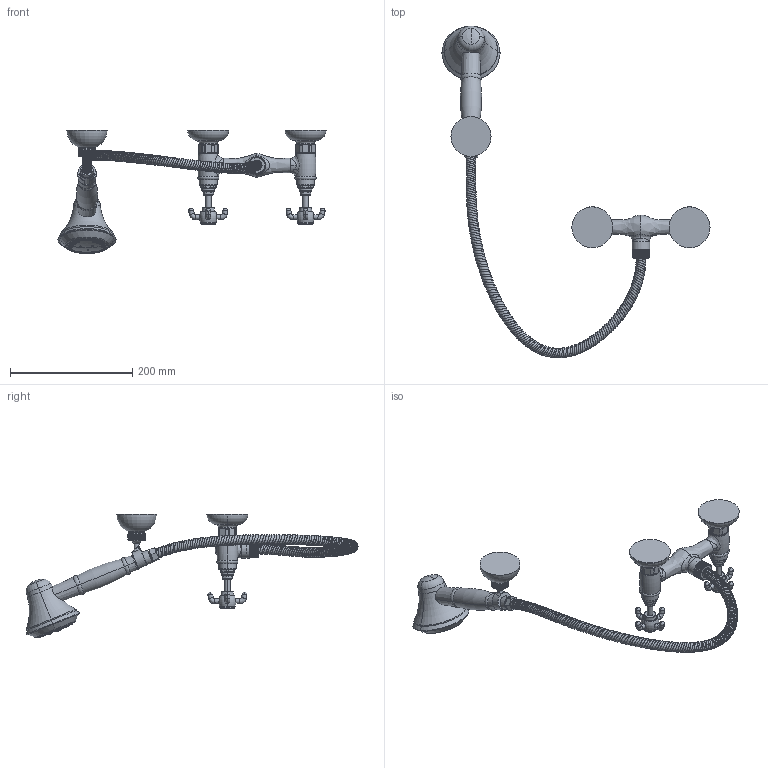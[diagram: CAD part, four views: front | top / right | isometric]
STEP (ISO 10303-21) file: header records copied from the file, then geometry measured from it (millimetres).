
FILE_DESCRIPTION (( 'STEP AP203' ), '1' );
FILE_NAME ('Ñáîðêà1.STEP', '2020-05-27T17:56:25', ( '' ), ( '' ), 'SwSTEP 2.0', 'SolidWorks 2018', '' );
FILE_SCHEMA (( 'CONFIG_CONTROL_DESIGN' ));
Length unit declared in the file: millimetre
Products named in the file (5): Êîïèÿ Ãàéêà^Ñáîðêà1; 栖闉罻1; 膴鳧; Êîïèÿ Øëàíã111^Ñáîðêà1; Leyka_88CR105
Assembly tree (4 placements, depth 2):
  栖闉罻1
    膴鳧
    Êîïèÿ Øëàíã111^Ñáîðêà1
    Leyka_88CR105
    Êîïèÿ Ãàéêà^Ñáîðêà1
Bounding box: 438.3 x 542.86 x 201.56 mm (x, y, z)
Volume: 941092.2 mm3; surface area: 158490.3 mm2
Topology: 12 solids, 12 shells, 1281 faces, 2981 edges, 1873 vertices
Faces by surface type: cylinder 532, bspline 235, torus 234, plane 220, sphere 31, cone 29
Full cylindrical faces by diameter (mm): 8 x1, 16.631 x1, 18 x2, 24.287 x1, 26 x2, 27.751 x1, 28 x1, 29 x1
Entity records: 90785 total; most frequent: CARTESIAN_POINT 64293, ORIENTED_EDGE 5812, DIRECTION 4580, EDGE_CURVE 2906, VERTEX_POINT 1851, AXIS2_PLACEMENT_3D 1851, EDGE_LOOP 1487, FACE_OUTER_BOUND 1306
